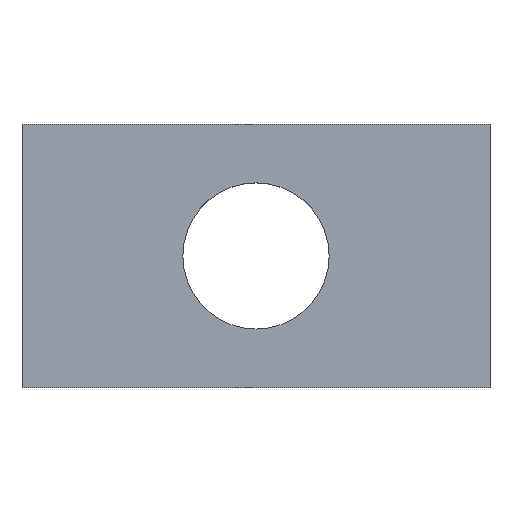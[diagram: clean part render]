
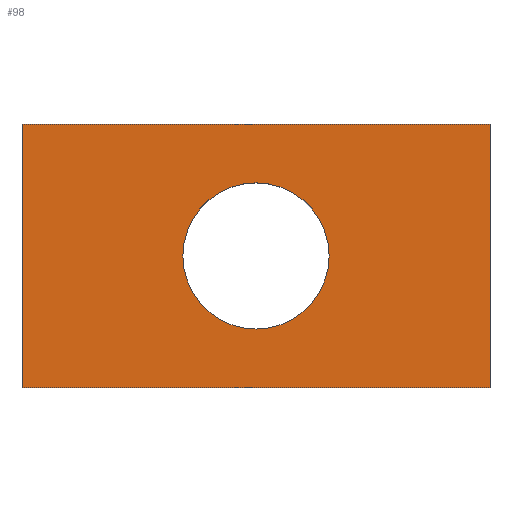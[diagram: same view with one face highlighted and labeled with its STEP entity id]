
A CAD part, top view. The second image highlights one B-rep face of the part: STEP entity #98.
In plain terms, the highlighted planar face has unit normal (0, 0, 1).
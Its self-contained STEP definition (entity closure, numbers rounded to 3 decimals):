
#98=ADVANCED_FACE('',(#141,#111),#105,.T.);
#105=PLANE('',#211);
#111=FACE_OUTER_BOUND('',#146,.T.);
#117=LINE('',#254,#129);
#118=LINE('',#257,#130);
#119=LINE('',#259,#131);
#120=LINE('',#261,#132);
#129=VECTOR('',#223,1.);
#130=VECTOR('',#224,1.);
#131=VECTOR('',#225,1.);
#132=VECTOR('',#226,1.);
#141=FACE_BOUND('',#145,.T.);
#145=EDGE_LOOP('',(#155));
#146=EDGE_LOOP('',(#156,#157,#158,#159));
#155=ORIENTED_EDGE('',*,*,#193,.T.);
#156=ORIENTED_EDGE('',*,*,#194,.F.);
#157=ORIENTED_EDGE('',*,*,#195,.F.);
#158=ORIENTED_EDGE('',*,*,#196,.F.);
#159=ORIENTED_EDGE('',*,*,#197,.F.);
#183=VERTEX_POINT('',#253);
#184=VERTEX_POINT('',#255);
#185=VERTEX_POINT('',#256);
#186=VERTEX_POINT('',#258);
#187=VERTEX_POINT('',#260);
#193=EDGE_CURVE('',#183,#183,#207,.T.);
#194=EDGE_CURVE('',#184,#185,#117,.T.);
#195=EDGE_CURVE('',#186,#184,#118,.T.);
#196=EDGE_CURVE('',#187,#186,#119,.T.);
#197=EDGE_CURVE('',#185,#187,#120,.T.);
#207=CIRCLE('',#210,5.);
#210=AXIS2_PLACEMENT_3D('',#252,#221,#222);
#211=AXIS2_PLACEMENT_3D('',#262,#227,#228);
#221=DIRECTION('',(0.,0.,-1.));
#222=DIRECTION('',(-1.,0.,0.));
#223=DIRECTION('',(-1.,0.,0.));
#224=DIRECTION('',(0.,-1.,0.));
#225=DIRECTION('',(1.,0.,0.));
#226=DIRECTION('',(0.,1.,0.));
#227=DIRECTION('',(0.,0.,1.));
#228=DIRECTION('',(1.,0.,0.));
#252=CARTESIAN_POINT('',(16.,9.,3.));
#253=CARTESIAN_POINT('',(11.,9.,3.));
#254=CARTESIAN_POINT('',(16.,0.,3.));
#255=CARTESIAN_POINT('',(32.,0.,3.));
#256=CARTESIAN_POINT('',(0.,0.,3.));
#257=CARTESIAN_POINT('',(32.,9.,3.));
#258=CARTESIAN_POINT('',(32.,18.,3.));
#259=CARTESIAN_POINT('',(16.,18.,3.));
#260=CARTESIAN_POINT('',(0.,18.,3.));
#261=CARTESIAN_POINT('',(0.,9.,3.));
#262=CARTESIAN_POINT('',(16.,9.,3.));
